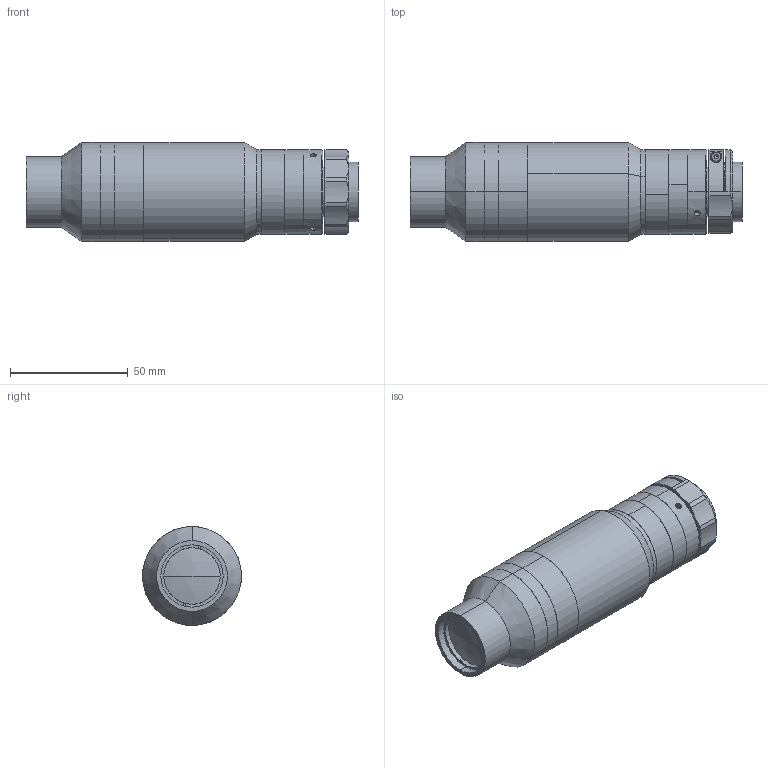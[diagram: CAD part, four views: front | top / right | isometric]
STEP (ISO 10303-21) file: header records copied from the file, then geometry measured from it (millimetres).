
FILE_DESCRIPTION (( 'STEP AP203' ), '1' );
FILE_NAME ('XF-MH02X541.STEP', '2020-08-24T07:12:53', ( 'canrill-02' ), ( '' ), 'SwSTEP 2.0', 'SolidWorks 2014', '' );
FILE_SCHEMA (( 'CONFIG_CONTROL_DESIGN' ));
Length unit declared in the file: millimetre
Products named in the file (1): XF-MH02X541
Bounding box: 140.83 x 42 x 42 mm (x, y, z)
Surface area: 23649.2 mm2 (no closed solid volume)
Topology: 0 solids, 14 shells, 113 faces, 304 edges, 206 vertices
Faces by surface type: cylinder 49, plane 43, cone 17, sphere 2, torus 2
Entity records: 3922 total; most frequent: CARTESIAN_POINT 943, DIRECTION 667, ORIENTED_EDGE 513, EDGE_CURVE 302, AXIS2_PLACEMENT_3D 274, VERTEX_POINT 206, CIRCLE 160, EDGE_LOOP 138
